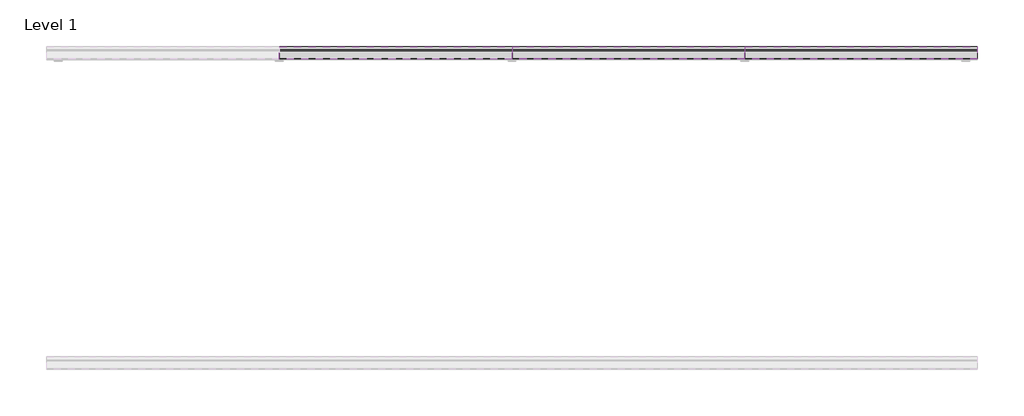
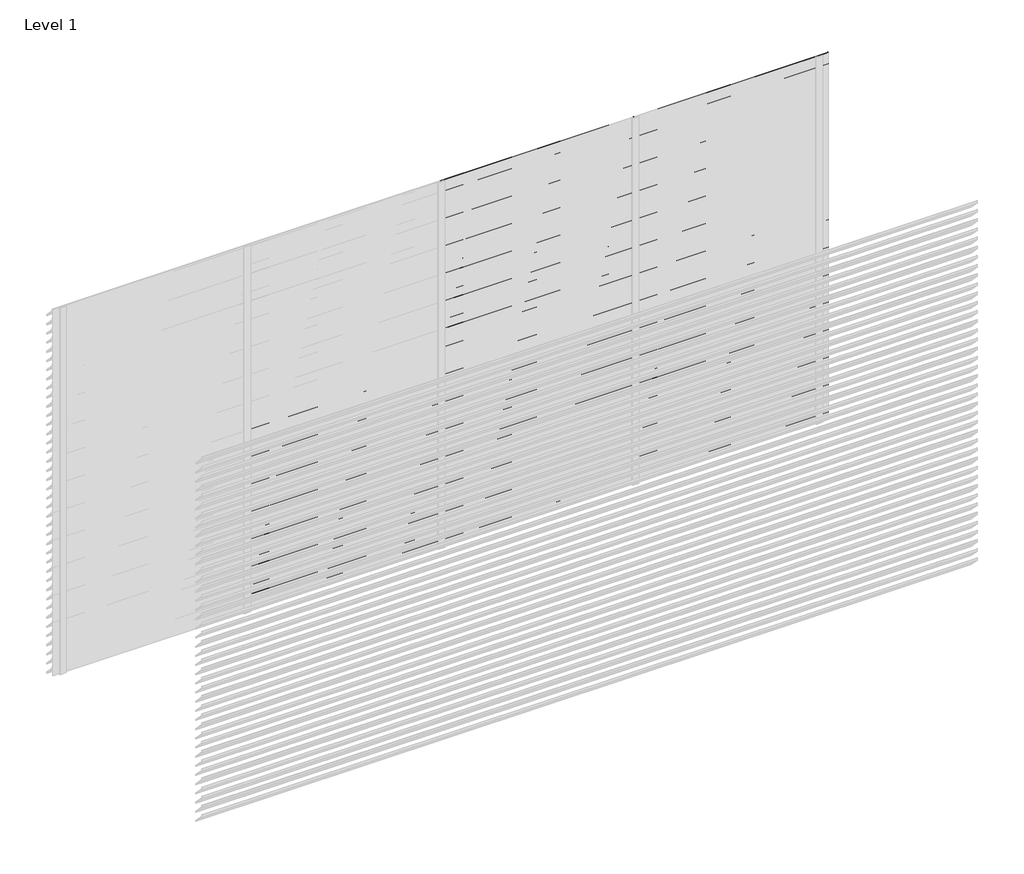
# One storey, part 9 of 9: 100 proxies.
"""IFC4 building model written with IfcOpenShell, lengths in millimetres."""

from ifc_helpers import new_model, si_unit, frame, origin, place, context, project, spatial, polyline, outline, extrude, element, save

model = new_model("IFC4")

# Units and contexts
model_context = context("Model", 3, world=origin())
ifc_project = project(units=[si_unit("LENGTHUNIT", "METRE", prefix="MILLI")], contexts=[model_context])

# Site, building, storey
site = spatial("IfcSite", under=ifc_project)
building = spatial("IfcBuilding", under=site)
storey = spatial("IfcBuildingStorey", under=building, Name="Level 1", Elevation=0.0)

# Proxies
placement = place(None, origin())
element("IfcBuildingElementProxy", 1, Name="Wall Sweeps", at=placement, inside=storey, context=model_context, shape_type="SweptSolid", body=[
    extrude(outline(polyline([(5.0, 1500.0), (5.0, 1487.7713645), (83.0, 1407.0), (83.0, 1398.0), (3.0, 1480.8424251), (3.0, 1500.0), (5.0, 1500.0)])), frame((1500.0, 0.0, 0.0), z_axis=(1.0, 0.0, 0.0), x_axis=(0.0, 1.0, 0.0)), (0.0, 0.0, 1.0), 1500.0),
])
element("IfcBuildingElementProxy", 2, Name="Wall Sweeps", at=placement, inside=storey, context=model_context, shape_type="SweptSolid", body=[
    extrude(outline(polyline([(5.0, 1425.0), (5.0, 1412.7713645), (83.0, 1332.0), (83.0, 1323.0), (3.0, 1405.8424251), (3.0, 1425.0), (5.0, 1425.0)])), frame((1500.0, 0.0, 0.0), z_axis=(1.0, 0.0, 0.0), x_axis=(0.0, 1.0, 0.0)), (0.0, 0.0, 1.0), 1500.0),
])
element("IfcBuildingElementProxy", 3, Name="Wall Sweeps", at=placement, inside=storey, context=model_context, shape_type="SweptSolid", body=[
    extrude(outline(polyline([(5.0, 1350.0), (5.0, 1337.7713645), (83.0, 1257.0), (83.0, 1248.0), (3.0, 1330.8424251), (3.0, 1350.0), (5.0, 1350.0)])), frame((1500.0, 0.0, 0.0), z_axis=(1.0, 0.0, 0.0), x_axis=(0.0, 1.0, 0.0)), (0.0, 0.0, 1.0), 1500.0),
])
element("IfcBuildingElementProxy", 4, Name="Wall Sweeps", at=placement, inside=storey, context=model_context, shape_type="SweptSolid", body=[
    extrude(outline(polyline([(5.0, 1275.0), (5.0, 1262.7713645), (83.0, 1182.0), (83.0, 1173.0), (3.0, 1255.8424251), (3.0, 1275.0), (5.0, 1275.0)])), frame((1500.0, 0.0, 0.0), z_axis=(1.0, 0.0, 0.0), x_axis=(0.0, 1.0, 0.0)), (0.0, 0.0, 1.0), 1500.0),
])
element("IfcBuildingElementProxy", 5, Name="Wall Sweeps", at=placement, inside=storey, context=model_context, shape_type="SweptSolid", body=[
    extrude(outline(polyline([(5.0, 1200.0), (5.0, 1187.7713645), (83.0, 1107.0), (83.0, 1098.0), (3.0, 1180.8424251), (3.0, 1200.0), (5.0, 1200.0)])), frame((1500.0, 0.0, 0.0), z_axis=(1.0, 0.0, 0.0), x_axis=(0.0, 1.0, 0.0)), (0.0, 0.0, 1.0), 1500.0),
])
element("IfcBuildingElementProxy", 6, Name="Wall Sweeps", at=placement, inside=storey, context=model_context, shape_type="SweptSolid", body=[
    extrude(outline(polyline([(5.0, 1125.0), (5.0, 1112.7713645), (83.0, 1032.0), (83.0, 1023.0), (3.0, 1105.8424251), (3.0, 1125.0), (5.0, 1125.0)])), frame((1500.0, 0.0, 0.0), z_axis=(1.0, 0.0, 0.0), x_axis=(0.0, 1.0, 0.0)), (0.0, 0.0, 1.0), 1500.0),
])
element("IfcBuildingElementProxy", 7, Name="Wall Sweeps", at=placement, inside=storey, context=model_context, shape_type="SweptSolid", body=[
    extrude(outline(polyline([(5.0, 1050.0), (5.0, 1037.7713645), (83.0, 957.0), (83.0, 948.0), (3.0, 1030.8424251), (3.0, 1050.0), (5.0, 1050.0)])), frame((1500.0, 0.0, 0.0), z_axis=(1.0, 0.0, 0.0), x_axis=(0.0, 1.0, 0.0)), (0.0, 0.0, 1.0), 1500.0),
])
element("IfcBuildingElementProxy", 8, Name="Wall Sweeps", at=placement, inside=storey, context=model_context, shape_type="SweptSolid", body=[
    extrude(outline(polyline([(5.0, 975.0), (5.0, 962.7713645), (83.0, 882.0), (83.0, 873.0), (3.0, 955.8424251), (3.0, 975.0), (5.0, 975.0)])), frame((1500.0, 0.0, 0.0), z_axis=(1.0, 0.0, 0.0), x_axis=(0.0, 1.0, 0.0)), (0.0, 0.0, 1.0), 1500.0),
])
element("IfcBuildingElementProxy", 9, Name="Wall Sweeps", at=placement, inside=storey, context=model_context, shape_type="SweptSolid", body=[
    extrude(outline(polyline([(5.0, 900.0), (5.0, 887.7713645), (83.0, 807.0), (83.0, 798.0), (3.0, 880.8424251), (3.0, 900.0), (5.0, 900.0)])), frame((1500.0, 0.0, 0.0), z_axis=(1.0, 0.0, 0.0), x_axis=(0.0, 1.0, 0.0)), (0.0, 0.0, 1.0), 1500.0),
])
element("IfcBuildingElementProxy", 10, Name="Wall Sweeps", at=placement, inside=storey, context=model_context, shape_type="SweptSolid", body=[
    extrude(outline(polyline([(5.0, 825.0), (5.0, 812.7713645), (83.0, 732.0), (83.0, 723.0), (3.0, 805.8424251), (3.0, 825.0), (5.0, 825.0)])), frame((1500.0, 0.0, 0.0), z_axis=(1.0, 0.0, 0.0), x_axis=(0.0, 1.0, 0.0)), (0.0, 0.0, 1.0), 1500.0),
])
element("IfcBuildingElementProxy", 11, Name="Wall Sweeps", at=placement, inside=storey, context=model_context, shape_type="SweptSolid", body=[
    extrude(outline(polyline([(5.0, 750.0), (5.0, 737.7713645), (83.0, 657.0), (83.0, 648.0), (3.0, 730.8424251), (3.0, 750.0), (5.0, 750.0)])), frame((1500.0, 0.0, 0.0), z_axis=(1.0, 0.0, 0.0), x_axis=(0.0, 1.0, 0.0)), (0.0, 0.0, 1.0), 1500.0),
])
element("IfcBuildingElementProxy", 12, Name="Wall Sweeps", at=placement, inside=storey, context=model_context, shape_type="SweptSolid", body=[
    extrude(outline(polyline([(5.0, 675.0), (5.0, 662.7713645), (83.0, 582.0), (83.0, 573.0), (3.0, 655.8424251), (3.0, 675.0), (5.0, 675.0)])), frame((1500.0, 0.0, 0.0), z_axis=(1.0, 0.0, 0.0), x_axis=(0.0, 1.0, 0.0)), (0.0, 0.0, 1.0), 1500.0),
])
element("IfcBuildingElementProxy", 13, Name="Wall Sweeps", at=placement, inside=storey, context=model_context, shape_type="SweptSolid", body=[
    extrude(outline(polyline([(5.0, 600.0), (5.0, 587.7713645), (83.0, 507.0), (83.0, 498.0), (3.0, 580.8424251), (3.0, 600.0), (5.0, 600.0)])), frame((1500.0, 0.0, 0.0), z_axis=(1.0, 0.0, 0.0), x_axis=(0.0, 1.0, 0.0)), (0.0, 0.0, 1.0), 1500.0),
])
element("IfcBuildingElementProxy", 14, Name="Wall Sweeps", at=placement, inside=storey, context=model_context, shape_type="SweptSolid", body=[
    extrude(outline(polyline([(5.0, 525.0), (5.0, 512.7713645), (83.0, 432.0), (83.0, 423.0), (3.0, 505.8424251), (3.0, 525.0), (5.0, 525.0)])), frame((1500.0, 0.0, 0.0), z_axis=(1.0, 0.0, 0.0), x_axis=(0.0, 1.0, 0.0)), (0.0, 0.0, 1.0), 1500.0),
])
element("IfcBuildingElementProxy", 15, Name="Wall Sweeps", at=placement, inside=storey, context=model_context, shape_type="SweptSolid", body=[
    extrude(outline(polyline([(5.0, 450.0), (5.0, 437.7713645), (83.0, 357.0), (83.0, 348.0), (3.0, 430.8424251), (3.0, 450.0), (5.0, 450.0)])), frame((1500.0, 0.0, 0.0), z_axis=(1.0, 0.0, 0.0), x_axis=(0.0, 1.0, 0.0)), (0.0, 0.0, 1.0), 1500.0),
])
element("IfcBuildingElementProxy", 16, Name="Wall Sweeps", at=placement, inside=storey, context=model_context, shape_type="SweptSolid", body=[
    extrude(outline(polyline([(5.0, 375.0), (5.0, 362.7713645), (83.0, 282.0), (83.0, 273.0), (3.0, 355.8424251), (3.0, 375.0), (5.0, 375.0)])), frame((1500.0, 0.0, 0.0), z_axis=(1.0, 0.0, 0.0), x_axis=(0.0, 1.0, 0.0)), (0.0, 0.0, 1.0), 1500.0),
])
element("IfcBuildingElementProxy", 17, Name="Wall Sweeps", at=placement, inside=storey, context=model_context, shape_type="SweptSolid", body=[
    extrude(outline(polyline([(5.0, 300.0), (5.0, 287.7713645), (83.0, 207.0), (83.0, 198.0), (3.0, 280.8424251), (3.0, 300.0), (5.0, 300.0)])), frame((1500.0, 0.0, 0.0), z_axis=(1.0, 0.0, 0.0), x_axis=(0.0, 1.0, 0.0)), (0.0, 0.0, 1.0), 1500.0),
])
element("IfcBuildingElementProxy", 18, Name="Wall Sweeps", at=placement, inside=storey, context=model_context, shape_type="SweptSolid", body=[
    extrude(outline(polyline([(5.0, 225.0), (5.0, 212.7713645), (83.0, 132.0), (83.0, 123.0), (3.0, 205.8424251), (3.0, 225.0), (5.0, 225.0)])), frame((1500.0, 0.0, 0.0), z_axis=(1.0, 0.0, 0.0), x_axis=(0.0, 1.0, 0.0)), (0.0, 0.0, 1.0), 1500.0),
])
element("IfcBuildingElementProxy", 19, Name="Wall Sweeps", at=placement, inside=storey, context=model_context, shape_type="SweptSolid", body=[
    extrude(outline(polyline([(5.0, 150.0), (5.0, 137.7713645), (83.0, 57.0), (83.0, 48.0), (3.0, 130.8424251), (3.0, 150.0), (5.0, 150.0)])), frame((1500.0, 0.0, 0.0), z_axis=(1.0, 0.0, 0.0), x_axis=(0.0, 1.0, 0.0)), (0.0, 0.0, 1.0), 1500.0),
])
element("IfcBuildingElementProxy", 20, Name="Wall Sweeps", at=placement, inside=storey, context=model_context, shape_type="SweptSolid", body=[
    extrude(outline(polyline([(5.0, 75.0), (5.0, 62.7713645), (83.0, -18.0), (83.0, -27.0), (3.0, 55.8424251), (3.0, 75.0), (5.0, 75.0)])), frame((1500.0, 0.0, 0.0), z_axis=(1.0, 0.0, 0.0), x_axis=(0.0, 1.0, 0.0)), (0.0, 0.0, 1.0), 1500.0),
])
element("IfcBuildingElementProxy", 21, Name="Wall Sweeps", at=placement, inside=storey, context=model_context, shape_type="SweptSolid", body=[
    extrude(outline(polyline([(5.0, 3000.0), (5.0, 2987.7713645), (83.0, 2907.0), (83.0, 2898.0), (3.0, 2980.8424251), (3.0, 3000.0), (5.0, 3000.0)])), frame((3000.0, 0.0, 0.0), z_axis=(1.0, 0.0, 0.0), x_axis=(0.0, 1.0, 0.0)), (0.0, 0.0, 1.0), 1500.0),
])
element("IfcBuildingElementProxy", 22, Name="Wall Sweeps", at=placement, inside=storey, context=model_context, shape_type="SweptSolid", body=[
    extrude(outline(polyline([(5.0, 2925.0), (5.0, 2912.7713645), (83.0, 2832.0), (83.0, 2823.0), (3.0, 2905.8424251), (3.0, 2925.0), (5.0, 2925.0)])), frame((3000.0, 0.0, 0.0), z_axis=(1.0, 0.0, 0.0), x_axis=(0.0, 1.0, 0.0)), (0.0, 0.0, 1.0), 1500.0),
])
element("IfcBuildingElementProxy", 23, Name="Wall Sweeps", at=placement, inside=storey, context=model_context, shape_type="SweptSolid", body=[
    extrude(outline(polyline([(5.0, 2850.0), (5.0, 2837.7713645), (83.0, 2757.0), (83.0, 2748.0), (3.0, 2830.8424251), (3.0, 2850.0), (5.0, 2850.0)])), frame((3000.0, 0.0, 0.0), z_axis=(1.0, 0.0, 0.0), x_axis=(0.0, 1.0, 0.0)), (0.0, 0.0, 1.0), 1500.0),
])
element("IfcBuildingElementProxy", 24, Name="Wall Sweeps", at=placement, inside=storey, context=model_context, shape_type="SweptSolid", body=[
    extrude(outline(polyline([(5.0, 2775.0), (5.0, 2762.7713645), (83.0, 2682.0), (83.0, 2673.0), (3.0, 2755.8424251), (3.0, 2775.0), (5.0, 2775.0)])), frame((3000.0, 0.0, 0.0), z_axis=(1.0, 0.0, 0.0), x_axis=(0.0, 1.0, 0.0)), (0.0, 0.0, 1.0), 1500.0),
])
element("IfcBuildingElementProxy", 25, Name="Wall Sweeps", at=placement, inside=storey, context=model_context, shape_type="SweptSolid", body=[
    extrude(outline(polyline([(5.0, 2700.0), (5.0, 2687.7713645), (83.0, 2607.0), (83.0, 2598.0), (3.0, 2680.8424251), (3.0, 2700.0), (5.0, 2700.0)])), frame((3000.0, 0.0, 0.0), z_axis=(1.0, 0.0, 0.0), x_axis=(0.0, 1.0, 0.0)), (0.0, 0.0, 1.0), 1500.0),
])
element("IfcBuildingElementProxy", 26, Name="Wall Sweeps", at=placement, inside=storey, context=model_context, shape_type="SweptSolid", body=[
    extrude(outline(polyline([(5.0, 2625.0), (5.0, 2612.7713645), (83.0, 2532.0), (83.0, 2523.0), (3.0, 2605.8424251), (3.0, 2625.0), (5.0, 2625.0)])), frame((3000.0, 0.0, 0.0), z_axis=(1.0, 0.0, 0.0), x_axis=(0.0, 1.0, 0.0)), (0.0, 0.0, 1.0), 1500.0),
])
element("IfcBuildingElementProxy", 27, Name="Wall Sweeps", at=placement, inside=storey, context=model_context, shape_type="SweptSolid", body=[
    extrude(outline(polyline([(5.0, 2550.0), (5.0, 2537.7713645), (83.0, 2457.0), (83.0, 2448.0), (3.0, 2530.8424251), (3.0, 2550.0), (5.0, 2550.0)])), frame((3000.0, 0.0, 0.0), z_axis=(1.0, 0.0, 0.0), x_axis=(0.0, 1.0, 0.0)), (0.0, 0.0, 1.0), 1500.0),
])
element("IfcBuildingElementProxy", 28, Name="Wall Sweeps", at=placement, inside=storey, context=model_context, shape_type="SweptSolid", body=[
    extrude(outline(polyline([(5.0, 2475.0), (5.0, 2462.7713645), (83.0, 2382.0), (83.0, 2373.0), (3.0, 2455.8424251), (3.0, 2475.0), (5.0, 2475.0)])), frame((3000.0, 0.0, 0.0), z_axis=(1.0, 0.0, 0.0), x_axis=(0.0, 1.0, 0.0)), (0.0, 0.0, 1.0), 1500.0),
])
element("IfcBuildingElementProxy", 29, Name="Wall Sweeps", at=placement, inside=storey, context=model_context, shape_type="SweptSolid", body=[
    extrude(outline(polyline([(5.0, 2400.0), (5.0, 2387.7713645), (83.0, 2307.0), (83.0, 2298.0), (3.0, 2380.8424251), (3.0, 2400.0), (5.0, 2400.0)])), frame((3000.0, 0.0, 0.0), z_axis=(1.0, 0.0, 0.0), x_axis=(0.0, 1.0, 0.0)), (0.0, 0.0, 1.0), 1500.0),
])
element("IfcBuildingElementProxy", 30, Name="Wall Sweeps", at=placement, inside=storey, context=model_context, shape_type="SweptSolid", body=[
    extrude(outline(polyline([(5.0, 2325.0), (5.0, 2312.7713645), (83.0, 2232.0), (83.0, 2223.0), (3.0, 2305.8424251), (3.0, 2325.0), (5.0, 2325.0)])), frame((3000.0, 0.0, 0.0), z_axis=(1.0, 0.0, 0.0), x_axis=(0.0, 1.0, 0.0)), (0.0, 0.0, 1.0), 1500.0),
])
element("IfcBuildingElementProxy", 31, Name="Wall Sweeps", at=placement, inside=storey, context=model_context, shape_type="SweptSolid", body=[
    extrude(outline(polyline([(5.0, 2250.0), (5.0, 2237.7713645), (83.0, 2157.0), (83.0, 2148.0), (3.0, 2230.8424251), (3.0, 2250.0), (5.0, 2250.0)])), frame((3000.0, 0.0, 0.0), z_axis=(1.0, 0.0, 0.0), x_axis=(0.0, 1.0, 0.0)), (0.0, 0.0, 1.0), 1500.0),
])
element("IfcBuildingElementProxy", 32, Name="Wall Sweeps", at=placement, inside=storey, context=model_context, shape_type="SweptSolid", body=[
    extrude(outline(polyline([(5.0, 2175.0), (5.0, 2162.7713645), (83.0, 2082.0), (83.0, 2073.0), (3.0, 2155.8424251), (3.0, 2175.0), (5.0, 2175.0)])), frame((3000.0, 0.0, 0.0), z_axis=(1.0, 0.0, 0.0), x_axis=(0.0, 1.0, 0.0)), (0.0, 0.0, 1.0), 1500.0),
])
element("IfcBuildingElementProxy", 33, Name="Wall Sweeps", at=placement, inside=storey, context=model_context, shape_type="SweptSolid", body=[
    extrude(outline(polyline([(5.0, 2100.0), (5.0, 2087.7713645), (83.0, 2007.0), (83.0, 1998.0), (3.0, 2080.8424251), (3.0, 2100.0), (5.0, 2100.0)])), frame((3000.0, 0.0, 0.0), z_axis=(1.0, 0.0, 0.0), x_axis=(0.0, 1.0, 0.0)), (0.0, 0.0, 1.0), 1500.0),
])
element("IfcBuildingElementProxy", 34, Name="Wall Sweeps", at=placement, inside=storey, context=model_context, shape_type="SweptSolid", body=[
    extrude(outline(polyline([(5.0, 2025.0), (5.0, 2012.7713645), (83.0, 1932.0), (83.0, 1923.0), (3.0, 2005.8424251), (3.0, 2025.0), (5.0, 2025.0)])), frame((3000.0, 0.0, 0.0), z_axis=(1.0, 0.0, 0.0), x_axis=(0.0, 1.0, 0.0)), (0.0, 0.0, 1.0), 1500.0),
])
element("IfcBuildingElementProxy", 35, Name="Wall Sweeps", at=placement, inside=storey, context=model_context, shape_type="SweptSolid", body=[
    extrude(outline(polyline([(5.0, 1950.0), (5.0, 1937.7713645), (83.0, 1857.0), (83.0, 1848.0), (3.0, 1930.8424251), (3.0, 1950.0), (5.0, 1950.0)])), frame((3000.0, 0.0, 0.0), z_axis=(1.0, 0.0, 0.0), x_axis=(0.0, 1.0, 0.0)), (0.0, 0.0, 1.0), 1500.0),
])
element("IfcBuildingElementProxy", 36, Name="Wall Sweeps", at=placement, inside=storey, context=model_context, shape_type="SweptSolid", body=[
    extrude(outline(polyline([(5.0, 1875.0), (5.0, 1862.7713645), (83.0, 1782.0), (83.0, 1773.0), (3.0, 1855.8424251), (3.0, 1875.0), (5.0, 1875.0)])), frame((3000.0, 0.0, 0.0), z_axis=(1.0, 0.0, 0.0), x_axis=(0.0, 1.0, 0.0)), (0.0, 0.0, 1.0), 1500.0),
])
element("IfcBuildingElementProxy", 37, Name="Wall Sweeps", at=placement, inside=storey, context=model_context, shape_type="SweptSolid", body=[
    extrude(outline(polyline([(5.0, 1800.0), (5.0, 1787.7713645), (83.0, 1707.0), (83.0, 1698.0), (3.0, 1780.8424251), (3.0, 1800.0), (5.0, 1800.0)])), frame((3000.0, 0.0, 0.0), z_axis=(1.0, 0.0, 0.0), x_axis=(0.0, 1.0, 0.0)), (0.0, 0.0, 1.0), 1500.0),
])
element("IfcBuildingElementProxy", 38, Name="Wall Sweeps", at=placement, inside=storey, context=model_context, shape_type="SweptSolid", body=[
    extrude(outline(polyline([(5.0, 1725.0), (5.0, 1712.7713645), (83.0, 1632.0), (83.0, 1623.0), (3.0, 1705.8424251), (3.0, 1725.0), (5.0, 1725.0)])), frame((3000.0, 0.0, 0.0), z_axis=(1.0, 0.0, 0.0), x_axis=(0.0, 1.0, 0.0)), (0.0, 0.0, 1.0), 1500.0),
])
element("IfcBuildingElementProxy", 39, Name="Wall Sweeps", at=placement, inside=storey, context=model_context, shape_type="SweptSolid", body=[
    extrude(outline(polyline([(5.0, 1650.0), (5.0, 1637.7713645), (83.0, 1557.0), (83.0, 1548.0), (3.0, 1630.8424251), (3.0, 1650.0), (5.0, 1650.0)])), frame((3000.0, 0.0, 0.0), z_axis=(1.0, 0.0, 0.0), x_axis=(0.0, 1.0, 0.0)), (0.0, 0.0, 1.0), 1500.0),
])
element("IfcBuildingElementProxy", 40, Name="Wall Sweeps", at=placement, inside=storey, context=model_context, shape_type="SweptSolid", body=[
    extrude(outline(polyline([(5.0, 1575.0), (5.0, 1562.7713645), (83.0, 1482.0), (83.0, 1473.0), (3.0, 1555.8424251), (3.0, 1575.0), (5.0, 1575.0)])), frame((3000.0, 0.0, 0.0), z_axis=(1.0, 0.0, 0.0), x_axis=(0.0, 1.0, 0.0)), (0.0, 0.0, 1.0), 1500.0),
])
element("IfcBuildingElementProxy", 41, Name="Wall Sweeps", at=placement, inside=storey, context=model_context, shape_type="SweptSolid", body=[
    extrude(outline(polyline([(5.0, 1500.0), (5.0, 1487.7713645), (83.0, 1407.0), (83.0, 1398.0), (3.0, 1480.8424251), (3.0, 1500.0), (5.0, 1500.0)])), frame((3000.0, 0.0, 0.0), z_axis=(1.0, 0.0, 0.0), x_axis=(0.0, 1.0, 0.0)), (0.0, 0.0, 1.0), 1500.0),
])
element("IfcBuildingElementProxy", 42, Name="Wall Sweeps", at=placement, inside=storey, context=model_context, shape_type="SweptSolid", body=[
    extrude(outline(polyline([(5.0, 1425.0), (5.0, 1412.7713645), (83.0, 1332.0), (83.0, 1323.0), (3.0, 1405.8424251), (3.0, 1425.0), (5.0, 1425.0)])), frame((3000.0, 0.0, 0.0), z_axis=(1.0, 0.0, 0.0), x_axis=(0.0, 1.0, 0.0)), (0.0, 0.0, 1.0), 1500.0),
])
element("IfcBuildingElementProxy", 43, Name="Wall Sweeps", at=placement, inside=storey, context=model_context, shape_type="SweptSolid", body=[
    extrude(outline(polyline([(5.0, 1350.0), (5.0, 1337.7713645), (83.0, 1257.0), (83.0, 1248.0), (3.0, 1330.8424251), (3.0, 1350.0), (5.0, 1350.0)])), frame((3000.0, 0.0, 0.0), z_axis=(1.0, 0.0, 0.0), x_axis=(0.0, 1.0, 0.0)), (0.0, 0.0, 1.0), 1500.0),
])
element("IfcBuildingElementProxy", 44, Name="Wall Sweeps", at=placement, inside=storey, context=model_context, shape_type="SweptSolid", body=[
    extrude(outline(polyline([(5.0, 1275.0), (5.0, 1262.7713645), (83.0, 1182.0), (83.0, 1173.0), (3.0, 1255.8424251), (3.0, 1275.0), (5.0, 1275.0)])), frame((3000.0, 0.0, 0.0), z_axis=(1.0, 0.0, 0.0), x_axis=(0.0, 1.0, 0.0)), (0.0, 0.0, 1.0), 1500.0),
])
element("IfcBuildingElementProxy", 45, Name="Wall Sweeps", at=placement, inside=storey, context=model_context, shape_type="SweptSolid", body=[
    extrude(outline(polyline([(5.0, 1200.0), (5.0, 1187.7713645), (83.0, 1107.0), (83.0, 1098.0), (3.0, 1180.8424251), (3.0, 1200.0), (5.0, 1200.0)])), frame((3000.0, 0.0, 0.0), z_axis=(1.0, 0.0, 0.0), x_axis=(0.0, 1.0, 0.0)), (0.0, 0.0, 1.0), 1500.0),
])
element("IfcBuildingElementProxy", 46, Name="Wall Sweeps", at=placement, inside=storey, context=model_context, shape_type="SweptSolid", body=[
    extrude(outline(polyline([(5.0, 1125.0), (5.0, 1112.7713645), (83.0, 1032.0), (83.0, 1023.0), (3.0, 1105.8424251), (3.0, 1125.0), (5.0, 1125.0)])), frame((3000.0, 0.0, 0.0), z_axis=(1.0, 0.0, 0.0), x_axis=(0.0, 1.0, 0.0)), (0.0, 0.0, 1.0), 1500.0),
])
element("IfcBuildingElementProxy", 47, Name="Wall Sweeps", at=placement, inside=storey, context=model_context, shape_type="SweptSolid", body=[
    extrude(outline(polyline([(5.0, 1050.0), (5.0, 1037.7713645), (83.0, 957.0), (83.0, 948.0), (3.0, 1030.8424251), (3.0, 1050.0), (5.0, 1050.0)])), frame((3000.0, 0.0, 0.0), z_axis=(1.0, 0.0, 0.0), x_axis=(0.0, 1.0, 0.0)), (0.0, 0.0, 1.0), 1500.0),
])
element("IfcBuildingElementProxy", 48, Name="Wall Sweeps", at=placement, inside=storey, context=model_context, shape_type="SweptSolid", body=[
    extrude(outline(polyline([(5.0, 975.0), (5.0, 962.7713645), (83.0, 882.0), (83.0, 873.0), (3.0, 955.8424251), (3.0, 975.0), (5.0, 975.0)])), frame((3000.0, 0.0, 0.0), z_axis=(1.0, 0.0, 0.0), x_axis=(0.0, 1.0, 0.0)), (0.0, 0.0, 1.0), 1500.0),
])
element("IfcBuildingElementProxy", 49, Name="Wall Sweeps", at=placement, inside=storey, context=model_context, shape_type="SweptSolid", body=[
    extrude(outline(polyline([(5.0, 900.0), (5.0, 887.7713645), (83.0, 807.0), (83.0, 798.0), (3.0, 880.8424251), (3.0, 900.0), (5.0, 900.0)])), frame((3000.0, 0.0, 0.0), z_axis=(1.0, 0.0, 0.0), x_axis=(0.0, 1.0, 0.0)), (0.0, 0.0, 1.0), 1500.0),
])
element("IfcBuildingElementProxy", 50, Name="Wall Sweeps", at=placement, inside=storey, context=model_context, shape_type="SweptSolid", body=[
    extrude(outline(polyline([(5.0, 825.0), (5.0, 812.7713645), (83.0, 732.0), (83.0, 723.0), (3.0, 805.8424251), (3.0, 825.0), (5.0, 825.0)])), frame((3000.0, 0.0, 0.0), z_axis=(1.0, 0.0, 0.0), x_axis=(0.0, 1.0, 0.0)), (0.0, 0.0, 1.0), 1500.0),
])
element("IfcBuildingElementProxy", 51, Name="Wall Sweeps", at=placement, inside=storey, context=model_context, shape_type="SweptSolid", body=[
    extrude(outline(polyline([(5.0, 750.0), (5.0, 737.7713645), (83.0, 657.0), (83.0, 648.0), (3.0, 730.8424251), (3.0, 750.0), (5.0, 750.0)])), frame((3000.0, 0.0, 0.0), z_axis=(1.0, 0.0, 0.0), x_axis=(0.0, 1.0, 0.0)), (0.0, 0.0, 1.0), 1500.0),
])
element("IfcBuildingElementProxy", 52, Name="Wall Sweeps", at=placement, inside=storey, context=model_context, shape_type="SweptSolid", body=[
    extrude(outline(polyline([(5.0, 675.0), (5.0, 662.7713645), (83.0, 582.0), (83.0, 573.0), (3.0, 655.8424251), (3.0, 675.0), (5.0, 675.0)])), frame((3000.0, 0.0, 0.0), z_axis=(1.0, 0.0, 0.0), x_axis=(0.0, 1.0, 0.0)), (0.0, 0.0, 1.0), 1500.0),
])
element("IfcBuildingElementProxy", 53, Name="Wall Sweeps", at=placement, inside=storey, context=model_context, shape_type="SweptSolid", body=[
    extrude(outline(polyline([(5.0, 600.0), (5.0, 587.7713645), (83.0, 507.0), (83.0, 498.0), (3.0, 580.8424251), (3.0, 600.0), (5.0, 600.0)])), frame((3000.0, 0.0, 0.0), z_axis=(1.0, 0.0, 0.0), x_axis=(0.0, 1.0, 0.0)), (0.0, 0.0, 1.0), 1500.0),
])
element("IfcBuildingElementProxy", 54, Name="Wall Sweeps", at=placement, inside=storey, context=model_context, shape_type="SweptSolid", body=[
    extrude(outline(polyline([(5.0, 525.0), (5.0, 512.7713645), (83.0, 432.0), (83.0, 423.0), (3.0, 505.8424251), (3.0, 525.0), (5.0, 525.0)])), frame((3000.0, 0.0, 0.0), z_axis=(1.0, 0.0, 0.0), x_axis=(0.0, 1.0, 0.0)), (0.0, 0.0, 1.0), 1500.0),
])
element("IfcBuildingElementProxy", 55, Name="Wall Sweeps", at=placement, inside=storey, context=model_context, shape_type="SweptSolid", body=[
    extrude(outline(polyline([(5.0, 450.0), (5.0, 437.7713645), (83.0, 357.0), (83.0, 348.0), (3.0, 430.8424251), (3.0, 450.0), (5.0, 450.0)])), frame((3000.0, 0.0, 0.0), z_axis=(1.0, 0.0, 0.0), x_axis=(0.0, 1.0, 0.0)), (0.0, 0.0, 1.0), 1500.0),
])
element("IfcBuildingElementProxy", 56, Name="Wall Sweeps", at=placement, inside=storey, context=model_context, shape_type="SweptSolid", body=[
    extrude(outline(polyline([(5.0, 375.0), (5.0, 362.7713645), (83.0, 282.0), (83.0, 273.0), (3.0, 355.8424251), (3.0, 375.0), (5.0, 375.0)])), frame((3000.0, 0.0, 0.0), z_axis=(1.0, 0.0, 0.0), x_axis=(0.0, 1.0, 0.0)), (0.0, 0.0, 1.0), 1500.0),
])
element("IfcBuildingElementProxy", 57, Name="Wall Sweeps", at=placement, inside=storey, context=model_context, shape_type="SweptSolid", body=[
    extrude(outline(polyline([(5.0, 300.0), (5.0, 287.7713645), (83.0, 207.0), (83.0, 198.0), (3.0, 280.8424251), (3.0, 300.0), (5.0, 300.0)])), frame((3000.0, 0.0, 0.0), z_axis=(1.0, 0.0, 0.0), x_axis=(0.0, 1.0, 0.0)), (0.0, 0.0, 1.0), 1500.0),
])
element("IfcBuildingElementProxy", 58, Name="Wall Sweeps", at=placement, inside=storey, context=model_context, shape_type="SweptSolid", body=[
    extrude(outline(polyline([(5.0, 225.0), (5.0, 212.7713645), (83.0, 132.0), (83.0, 123.0), (3.0, 205.8424251), (3.0, 225.0), (5.0, 225.0)])), frame((3000.0, 0.0, 0.0), z_axis=(1.0, 0.0, 0.0), x_axis=(0.0, 1.0, 0.0)), (0.0, 0.0, 1.0), 1500.0),
])
element("IfcBuildingElementProxy", 59, Name="Wall Sweeps", at=placement, inside=storey, context=model_context, shape_type="SweptSolid", body=[
    extrude(outline(polyline([(5.0, 150.0), (5.0, 137.7713645), (83.0, 57.0), (83.0, 48.0), (3.0, 130.8424251), (3.0, 150.0), (5.0, 150.0)])), frame((3000.0, 0.0, 0.0), z_axis=(1.0, 0.0, 0.0), x_axis=(0.0, 1.0, 0.0)), (0.0, 0.0, 1.0), 1500.0),
])
element("IfcBuildingElementProxy", 60, Name="Wall Sweeps", at=placement, inside=storey, context=model_context, shape_type="SweptSolid", body=[
    extrude(outline(polyline([(5.0, 75.0), (5.0, 62.7713645), (83.0, -18.0), (83.0, -27.0), (3.0, 55.8424251), (3.0, 75.0), (5.0, 75.0)])), frame((3000.0, 0.0, 0.0), z_axis=(1.0, 0.0, 0.0), x_axis=(0.0, 1.0, 0.0)), (0.0, 0.0, 1.0), 1500.0),
])
element("IfcBuildingElementProxy", 61, Name="Wall Sweeps", at=placement, inside=storey, context=model_context, shape_type="SweptSolid", body=[
    extrude(outline(polyline([(5.0, 3000.0), (5.0, 2987.7713645), (83.0, 2907.0), (83.0, 2898.0), (3.0, 2980.8424251), (3.0, 3000.0), (5.0, 3000.0)])), frame((4500.0, 0.0, 0.0), z_axis=(1.0, 0.0, 0.0), x_axis=(0.0, 1.0, 0.0)), (0.0, 0.0, 1.0), 1500.0),
])
element("IfcBuildingElementProxy", 62, Name="Wall Sweeps", at=placement, inside=storey, context=model_context, shape_type="SweptSolid", body=[
    extrude(outline(polyline([(5.0, 2925.0), (5.0, 2912.7713645), (83.0, 2832.0), (83.0, 2823.0), (3.0, 2905.8424251), (3.0, 2925.0), (5.0, 2925.0)])), frame((4500.0, 0.0, 0.0), z_axis=(1.0, 0.0, 0.0), x_axis=(0.0, 1.0, 0.0)), (0.0, 0.0, 1.0), 1500.0),
])
element("IfcBuildingElementProxy", 63, Name="Wall Sweeps", at=placement, inside=storey, context=model_context, shape_type="SweptSolid", body=[
    extrude(outline(polyline([(5.0, 2850.0), (5.0, 2837.7713645), (83.0, 2757.0), (83.0, 2748.0), (3.0, 2830.8424251), (3.0, 2850.0), (5.0, 2850.0)])), frame((4500.0, 0.0, 0.0), z_axis=(1.0, 0.0, 0.0), x_axis=(0.0, 1.0, 0.0)), (0.0, 0.0, 1.0), 1500.0),
])
element("IfcBuildingElementProxy", 64, Name="Wall Sweeps", at=placement, inside=storey, context=model_context, shape_type="SweptSolid", body=[
    extrude(outline(polyline([(5.0, 2775.0), (5.0, 2762.7713645), (83.0, 2682.0), (83.0, 2673.0), (3.0, 2755.8424251), (3.0, 2775.0), (5.0, 2775.0)])), frame((4500.0, 0.0, 0.0), z_axis=(1.0, 0.0, 0.0), x_axis=(0.0, 1.0, 0.0)), (0.0, 0.0, 1.0), 1500.0),
])
element("IfcBuildingElementProxy", 65, Name="Wall Sweeps", at=placement, inside=storey, context=model_context, shape_type="SweptSolid", body=[
    extrude(outline(polyline([(5.0, 2700.0), (5.0, 2687.7713645), (83.0, 2607.0), (83.0, 2598.0), (3.0, 2680.8424251), (3.0, 2700.0), (5.0, 2700.0)])), frame((4500.0, 0.0, 0.0), z_axis=(1.0, 0.0, 0.0), x_axis=(0.0, 1.0, 0.0)), (0.0, 0.0, 1.0), 1500.0),
])
element("IfcBuildingElementProxy", 66, Name="Wall Sweeps", at=placement, inside=storey, context=model_context, shape_type="SweptSolid", body=[
    extrude(outline(polyline([(5.0, 2625.0), (5.0, 2612.7713645), (83.0, 2532.0), (83.0, 2523.0), (3.0, 2605.8424251), (3.0, 2625.0), (5.0, 2625.0)])), frame((4500.0, 0.0, 0.0), z_axis=(1.0, 0.0, 0.0), x_axis=(0.0, 1.0, 0.0)), (0.0, 0.0, 1.0), 1500.0),
])
element("IfcBuildingElementProxy", 67, Name="Wall Sweeps", at=placement, inside=storey, context=model_context, shape_type="SweptSolid", body=[
    extrude(outline(polyline([(5.0, 2550.0), (5.0, 2537.7713645), (83.0, 2457.0), (83.0, 2448.0), (3.0, 2530.8424251), (3.0, 2550.0), (5.0, 2550.0)])), frame((4500.0, 0.0, 0.0), z_axis=(1.0, 0.0, 0.0), x_axis=(0.0, 1.0, 0.0)), (0.0, 0.0, 1.0), 1500.0),
])
element("IfcBuildingElementProxy", 68, Name="Wall Sweeps", at=placement, inside=storey, context=model_context, shape_type="SweptSolid", body=[
    extrude(outline(polyline([(5.0, 2475.0), (5.0, 2462.7713645), (83.0, 2382.0), (83.0, 2373.0), (3.0, 2455.8424251), (3.0, 2475.0), (5.0, 2475.0)])), frame((4500.0, 0.0, 0.0), z_axis=(1.0, 0.0, 0.0), x_axis=(0.0, 1.0, 0.0)), (0.0, 0.0, 1.0), 1500.0),
])
element("IfcBuildingElementProxy", 69, Name="Wall Sweeps", at=placement, inside=storey, context=model_context, shape_type="SweptSolid", body=[
    extrude(outline(polyline([(5.0, 2400.0), (5.0, 2387.7713645), (83.0, 2307.0), (83.0, 2298.0), (3.0, 2380.8424251), (3.0, 2400.0), (5.0, 2400.0)])), frame((4500.0, 0.0, 0.0), z_axis=(1.0, 0.0, 0.0), x_axis=(0.0, 1.0, 0.0)), (0.0, 0.0, 1.0), 1500.0),
])
element("IfcBuildingElementProxy", 70, Name="Wall Sweeps", at=placement, inside=storey, context=model_context, shape_type="SweptSolid", body=[
    extrude(outline(polyline([(5.0, 2325.0), (5.0, 2312.7713645), (83.0, 2232.0), (83.0, 2223.0), (3.0, 2305.8424251), (3.0, 2325.0), (5.0, 2325.0)])), frame((4500.0, 0.0, 0.0), z_axis=(1.0, 0.0, 0.0), x_axis=(0.0, 1.0, 0.0)), (0.0, 0.0, 1.0), 1500.0),
])
element("IfcBuildingElementProxy", 71, Name="Wall Sweeps", at=placement, inside=storey, context=model_context, shape_type="SweptSolid", body=[
    extrude(outline(polyline([(5.0, 2250.0), (5.0, 2237.7713645), (83.0, 2157.0), (83.0, 2148.0), (3.0, 2230.8424251), (3.0, 2250.0), (5.0, 2250.0)])), frame((4500.0, 0.0, 0.0), z_axis=(1.0, 0.0, 0.0), x_axis=(0.0, 1.0, 0.0)), (0.0, 0.0, 1.0), 1500.0),
])
element("IfcBuildingElementProxy", 72, Name="Wall Sweeps", at=placement, inside=storey, context=model_context, shape_type="SweptSolid", body=[
    extrude(outline(polyline([(5.0, 2175.0), (5.0, 2162.7713645), (83.0, 2082.0), (83.0, 2073.0), (3.0, 2155.8424251), (3.0, 2175.0), (5.0, 2175.0)])), frame((4500.0, 0.0, 0.0), z_axis=(1.0, 0.0, 0.0), x_axis=(0.0, 1.0, 0.0)), (0.0, 0.0, 1.0), 1500.0),
])
element("IfcBuildingElementProxy", 73, Name="Wall Sweeps", at=placement, inside=storey, context=model_context, shape_type="SweptSolid", body=[
    extrude(outline(polyline([(5.0, 2100.0), (5.0, 2087.7713645), (83.0, 2007.0), (83.0, 1998.0), (3.0, 2080.8424251), (3.0, 2100.0), (5.0, 2100.0)])), frame((4500.0, 0.0, 0.0), z_axis=(1.0, 0.0, 0.0), x_axis=(0.0, 1.0, 0.0)), (0.0, 0.0, 1.0), 1500.0),
])
element("IfcBuildingElementProxy", 74, Name="Wall Sweeps", at=placement, inside=storey, context=model_context, shape_type="SweptSolid", body=[
    extrude(outline(polyline([(5.0, 2025.0), (5.0, 2012.7713645), (83.0, 1932.0), (83.0, 1923.0), (3.0, 2005.8424251), (3.0, 2025.0), (5.0, 2025.0)])), frame((4500.0, 0.0, 0.0), z_axis=(1.0, 0.0, 0.0), x_axis=(0.0, 1.0, 0.0)), (0.0, 0.0, 1.0), 1500.0),
])
element("IfcBuildingElementProxy", 75, Name="Wall Sweeps", at=placement, inside=storey, context=model_context, shape_type="SweptSolid", body=[
    extrude(outline(polyline([(5.0, 1950.0), (5.0, 1937.7713645), (83.0, 1857.0), (83.0, 1848.0), (3.0, 1930.8424251), (3.0, 1950.0), (5.0, 1950.0)])), frame((4500.0, 0.0, 0.0), z_axis=(1.0, 0.0, 0.0), x_axis=(0.0, 1.0, 0.0)), (0.0, 0.0, 1.0), 1500.0),
])
element("IfcBuildingElementProxy", 76, Name="Wall Sweeps", at=placement, inside=storey, context=model_context, shape_type="SweptSolid", body=[
    extrude(outline(polyline([(5.0, 1875.0), (5.0, 1862.7713645), (83.0, 1782.0), (83.0, 1773.0), (3.0, 1855.8424251), (3.0, 1875.0), (5.0, 1875.0)])), frame((4500.0, 0.0, 0.0), z_axis=(1.0, 0.0, 0.0), x_axis=(0.0, 1.0, 0.0)), (0.0, 0.0, 1.0), 1500.0),
])
element("IfcBuildingElementProxy", 77, Name="Wall Sweeps", at=placement, inside=storey, context=model_context, shape_type="SweptSolid", body=[
    extrude(outline(polyline([(5.0, 1800.0), (5.0, 1787.7713645), (83.0, 1707.0), (83.0, 1698.0), (3.0, 1780.8424251), (3.0, 1800.0), (5.0, 1800.0)])), frame((4500.0, 0.0, 0.0), z_axis=(1.0, 0.0, 0.0), x_axis=(0.0, 1.0, 0.0)), (0.0, 0.0, 1.0), 1500.0),
])
element("IfcBuildingElementProxy", 78, Name="Wall Sweeps", at=placement, inside=storey, context=model_context, shape_type="SweptSolid", body=[
    extrude(outline(polyline([(5.0, 1725.0), (5.0, 1712.7713645), (83.0, 1632.0), (83.0, 1623.0), (3.0, 1705.8424251), (3.0, 1725.0), (5.0, 1725.0)])), frame((4500.0, 0.0, 0.0), z_axis=(1.0, 0.0, 0.0), x_axis=(0.0, 1.0, 0.0)), (0.0, 0.0, 1.0), 1500.0),
])
element("IfcBuildingElementProxy", 79, Name="Wall Sweeps", at=placement, inside=storey, context=model_context, shape_type="SweptSolid", body=[
    extrude(outline(polyline([(5.0, 1650.0), (5.0, 1637.7713645), (83.0, 1557.0), (83.0, 1548.0), (3.0, 1630.8424251), (3.0, 1650.0), (5.0, 1650.0)])), frame((4500.0, 0.0, 0.0), z_axis=(1.0, 0.0, 0.0), x_axis=(0.0, 1.0, 0.0)), (0.0, 0.0, 1.0), 1500.0),
])
element("IfcBuildingElementProxy", 80, Name="Wall Sweeps", at=placement, inside=storey, context=model_context, shape_type="SweptSolid", body=[
    extrude(outline(polyline([(5.0, 1575.0), (5.0, 1562.7713645), (83.0, 1482.0), (83.0, 1473.0), (3.0, 1555.8424251), (3.0, 1575.0), (5.0, 1575.0)])), frame((4500.0, 0.0, 0.0), z_axis=(1.0, 0.0, 0.0), x_axis=(0.0, 1.0, 0.0)), (0.0, 0.0, 1.0), 1500.0),
])
element("IfcBuildingElementProxy", 81, Name="Wall Sweeps", at=placement, inside=storey, context=model_context, shape_type="SweptSolid", body=[
    extrude(outline(polyline([(5.0, 1500.0), (5.0, 1487.7713645), (83.0, 1407.0), (83.0, 1398.0), (3.0, 1480.8424251), (3.0, 1500.0), (5.0, 1500.0)])), frame((4500.0, 0.0, 0.0), z_axis=(1.0, 0.0, 0.0), x_axis=(0.0, 1.0, 0.0)), (0.0, 0.0, 1.0), 1500.0),
])
element("IfcBuildingElementProxy", 82, Name="Wall Sweeps", at=placement, inside=storey, context=model_context, shape_type="SweptSolid", body=[
    extrude(outline(polyline([(5.0, 1425.0), (5.0, 1412.7713645), (83.0, 1332.0), (83.0, 1323.0), (3.0, 1405.8424251), (3.0, 1425.0), (5.0, 1425.0)])), frame((4500.0, 0.0, 0.0), z_axis=(1.0, 0.0, 0.0), x_axis=(0.0, 1.0, 0.0)), (0.0, 0.0, 1.0), 1500.0),
])
element("IfcBuildingElementProxy", 83, Name="Wall Sweeps", at=placement, inside=storey, context=model_context, shape_type="SweptSolid", body=[
    extrude(outline(polyline([(5.0, 1350.0), (5.0, 1337.7713645), (83.0, 1257.0), (83.0, 1248.0), (3.0, 1330.8424251), (3.0, 1350.0), (5.0, 1350.0)])), frame((4500.0, 0.0, 0.0), z_axis=(1.0, 0.0, 0.0), x_axis=(0.0, 1.0, 0.0)), (0.0, 0.0, 1.0), 1500.0),
])
element("IfcBuildingElementProxy", 84, Name="Wall Sweeps", at=placement, inside=storey, context=model_context, shape_type="SweptSolid", body=[
    extrude(outline(polyline([(5.0, 1275.0), (5.0, 1262.7713645), (83.0, 1182.0), (83.0, 1173.0), (3.0, 1255.8424251), (3.0, 1275.0), (5.0, 1275.0)])), frame((4500.0, 0.0, 0.0), z_axis=(1.0, 0.0, 0.0), x_axis=(0.0, 1.0, 0.0)), (0.0, 0.0, 1.0), 1500.0),
])
element("IfcBuildingElementProxy", 85, Name="Wall Sweeps", at=placement, inside=storey, context=model_context, shape_type="SweptSolid", body=[
    extrude(outline(polyline([(5.0, 1200.0), (5.0, 1187.7713645), (83.0, 1107.0), (83.0, 1098.0), (3.0, 1180.8424251), (3.0, 1200.0), (5.0, 1200.0)])), frame((4500.0, 0.0, 0.0), z_axis=(1.0, 0.0, 0.0), x_axis=(0.0, 1.0, 0.0)), (0.0, 0.0, 1.0), 1500.0),
])
element("IfcBuildingElementProxy", 86, Name="Wall Sweeps", at=placement, inside=storey, context=model_context, shape_type="SweptSolid", body=[
    extrude(outline(polyline([(5.0, 1125.0), (5.0, 1112.7713645), (83.0, 1032.0), (83.0, 1023.0), (3.0, 1105.8424251), (3.0, 1125.0), (5.0, 1125.0)])), frame((4500.0, 0.0, 0.0), z_axis=(1.0, 0.0, 0.0), x_axis=(0.0, 1.0, 0.0)), (0.0, 0.0, 1.0), 1500.0),
])
element("IfcBuildingElementProxy", 87, Name="Wall Sweeps", at=placement, inside=storey, context=model_context, shape_type="SweptSolid", body=[
    extrude(outline(polyline([(5.0, 1050.0), (5.0, 1037.7713645), (83.0, 957.0), (83.0, 948.0), (3.0, 1030.8424251), (3.0, 1050.0), (5.0, 1050.0)])), frame((4500.0, 0.0, 0.0), z_axis=(1.0, 0.0, 0.0), x_axis=(0.0, 1.0, 0.0)), (0.0, 0.0, 1.0), 1500.0),
])
element("IfcBuildingElementProxy", 88, Name="Wall Sweeps", at=placement, inside=storey, context=model_context, shape_type="SweptSolid", body=[
    extrude(outline(polyline([(5.0, 975.0), (5.0, 962.7713645), (83.0, 882.0), (83.0, 873.0), (3.0, 955.8424251), (3.0, 975.0), (5.0, 975.0)])), frame((4500.0, 0.0, 0.0), z_axis=(1.0, 0.0, 0.0), x_axis=(0.0, 1.0, 0.0)), (0.0, 0.0, 1.0), 1500.0),
])
element("IfcBuildingElementProxy", 89, Name="Wall Sweeps", at=placement, inside=storey, context=model_context, shape_type="SweptSolid", body=[
    extrude(outline(polyline([(5.0, 900.0), (5.0, 887.7713645), (83.0, 807.0), (83.0, 798.0), (3.0, 880.8424251), (3.0, 900.0), (5.0, 900.0)])), frame((4500.0, 0.0, 0.0), z_axis=(1.0, 0.0, 0.0), x_axis=(0.0, 1.0, 0.0)), (0.0, 0.0, 1.0), 1500.0),
])
element("IfcBuildingElementProxy", 90, Name="Wall Sweeps", at=placement, inside=storey, context=model_context, shape_type="SweptSolid", body=[
    extrude(outline(polyline([(5.0, 825.0), (5.0, 812.7713645), (83.0, 732.0), (83.0, 723.0), (3.0, 805.8424251), (3.0, 825.0), (5.0, 825.0)])), frame((4500.0, 0.0, 0.0), z_axis=(1.0, 0.0, 0.0), x_axis=(0.0, 1.0, 0.0)), (0.0, 0.0, 1.0), 1500.0),
])
element("IfcBuildingElementProxy", 91, Name="Wall Sweeps", at=placement, inside=storey, context=model_context, shape_type="SweptSolid", body=[
    extrude(outline(polyline([(5.0, 750.0), (5.0, 737.7713645), (83.0, 657.0), (83.0, 648.0), (3.0, 730.8424251), (3.0, 750.0), (5.0, 750.0)])), frame((4500.0, 0.0, 0.0), z_axis=(1.0, 0.0, 0.0), x_axis=(0.0, 1.0, 0.0)), (0.0, 0.0, 1.0), 1500.0),
])
element("IfcBuildingElementProxy", 92, Name="Wall Sweeps", at=placement, inside=storey, context=model_context, shape_type="SweptSolid", body=[
    extrude(outline(polyline([(5.0, 675.0), (5.0, 662.7713645), (83.0, 582.0), (83.0, 573.0), (3.0, 655.8424251), (3.0, 675.0), (5.0, 675.0)])), frame((4500.0, 0.0, 0.0), z_axis=(1.0, 0.0, 0.0), x_axis=(0.0, 1.0, 0.0)), (0.0, 0.0, 1.0), 1500.0),
])
element("IfcBuildingElementProxy", 93, Name="Wall Sweeps", at=placement, inside=storey, context=model_context, shape_type="SweptSolid", body=[
    extrude(outline(polyline([(5.0, 600.0), (5.0, 587.7713645), (83.0, 507.0), (83.0, 498.0), (3.0, 580.8424251), (3.0, 600.0), (5.0, 600.0)])), frame((4500.0, 0.0, 0.0), z_axis=(1.0, 0.0, 0.0), x_axis=(0.0, 1.0, 0.0)), (0.0, 0.0, 1.0), 1500.0),
])
element("IfcBuildingElementProxy", 94, Name="Wall Sweeps", at=placement, inside=storey, context=model_context, shape_type="SweptSolid", body=[
    extrude(outline(polyline([(5.0, 525.0), (5.0, 512.7713645), (83.0, 432.0), (83.0, 423.0), (3.0, 505.8424251), (3.0, 525.0), (5.0, 525.0)])), frame((4500.0, 0.0, 0.0), z_axis=(1.0, 0.0, 0.0), x_axis=(0.0, 1.0, 0.0)), (0.0, 0.0, 1.0), 1500.0),
])
element("IfcBuildingElementProxy", 95, Name="Wall Sweeps", at=placement, inside=storey, context=model_context, shape_type="SweptSolid", body=[
    extrude(outline(polyline([(5.0, 450.0), (5.0, 437.7713645), (83.0, 357.0), (83.0, 348.0), (3.0, 430.8424251), (3.0, 450.0), (5.0, 450.0)])), frame((4500.0, 0.0, 0.0), z_axis=(1.0, 0.0, 0.0), x_axis=(0.0, 1.0, 0.0)), (0.0, 0.0, 1.0), 1500.0),
])
element("IfcBuildingElementProxy", 96, Name="Wall Sweeps", at=placement, inside=storey, context=model_context, shape_type="SweptSolid", body=[
    extrude(outline(polyline([(5.0, 375.0), (5.0, 362.7713645), (83.0, 282.0), (83.0, 273.0), (3.0, 355.8424251), (3.0, 375.0), (5.0, 375.0)])), frame((4500.0, 0.0, 0.0), z_axis=(1.0, 0.0, 0.0), x_axis=(0.0, 1.0, 0.0)), (0.0, 0.0, 1.0), 1500.0),
])
element("IfcBuildingElementProxy", 97, Name="Wall Sweeps", at=placement, inside=storey, context=model_context, shape_type="SweptSolid", body=[
    extrude(outline(polyline([(5.0, 300.0), (5.0, 287.7713645), (83.0, 207.0), (83.0, 198.0), (3.0, 280.8424251), (3.0, 300.0), (5.0, 300.0)])), frame((4500.0, 0.0, 0.0), z_axis=(1.0, 0.0, 0.0), x_axis=(0.0, 1.0, 0.0)), (0.0, 0.0, 1.0), 1500.0),
])
element("IfcBuildingElementProxy", 98, Name="Wall Sweeps", at=placement, inside=storey, context=model_context, shape_type="SweptSolid", body=[
    extrude(outline(polyline([(5.0, 225.0), (5.0, 212.7713645), (83.0, 132.0), (83.0, 123.0), (3.0, 205.8424251), (3.0, 225.0), (5.0, 225.0)])), frame((4500.0, 0.0, 0.0), z_axis=(1.0, 0.0, 0.0), x_axis=(0.0, 1.0, 0.0)), (0.0, 0.0, 1.0), 1500.0),
])
element("IfcBuildingElementProxy", 99, Name="Wall Sweeps", at=placement, inside=storey, context=model_context, shape_type="SweptSolid", body=[
    extrude(outline(polyline([(5.0, 150.0), (5.0, 137.7713645), (83.0, 57.0), (83.0, 48.0), (3.0, 130.8424251), (3.0, 150.0), (5.0, 150.0)])), frame((4500.0, 0.0, 0.0), z_axis=(1.0, 0.0, 0.0), x_axis=(0.0, 1.0, 0.0)), (0.0, 0.0, 1.0), 1500.0),
])
element("IfcBuildingElementProxy", 100, Name="Wall Sweeps", at=placement, inside=storey, context=model_context, shape_type="SweptSolid", body=[
    extrude(outline(polyline([(5.0, 75.0), (5.0, 62.7713645), (83.0, -18.0), (83.0, -27.0), (3.0, 55.8424251), (3.0, 75.0), (5.0, 75.0)])), frame((4500.0, 0.0, 0.0), z_axis=(1.0, 0.0, 0.0), x_axis=(0.0, 1.0, 0.0)), (0.0, 0.0, 1.0), 1500.0),
])

save(model, "model.ifc")
